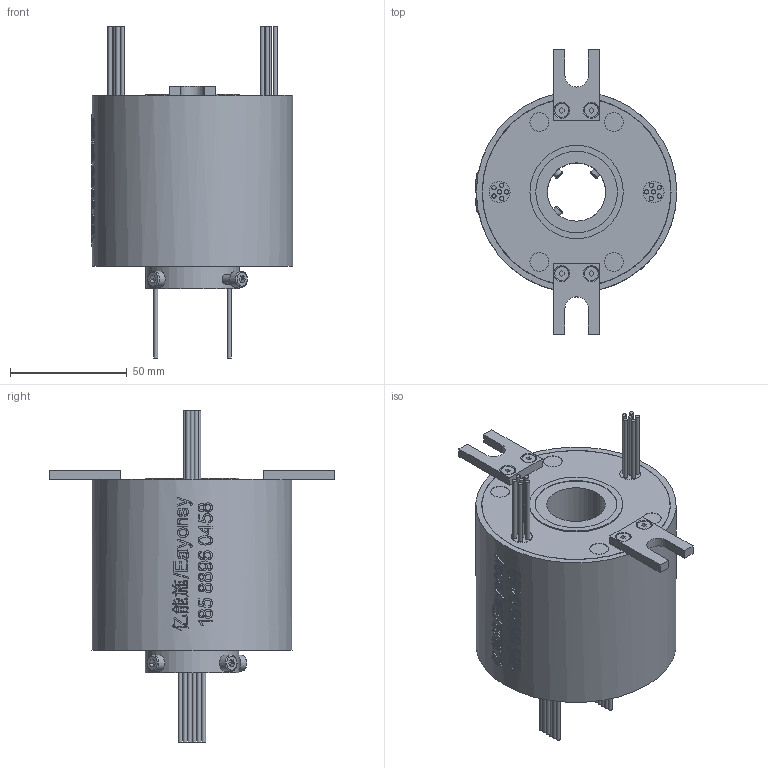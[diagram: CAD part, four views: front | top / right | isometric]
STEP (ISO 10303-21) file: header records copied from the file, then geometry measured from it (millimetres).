
FILE_DESCRIPTION(/* description */ (''),/* implementation_level */ '2;1');
FILE_NAME(/* name */ 'YD2586-1210-3D模型.stp',/* time_stamp */ '2025-09-03T10:22:03+08:00',/* author */ (''),/* organization */ (''),/* preprocessor_version */ 'ST-DEVELOPER v16.7',/* originating_system */ 'SIEMENS PLM Software NX 12.0',/* authorisation */ '');
FILE_SCHEMA (('AUTOMOTIVE_DESIGN { 1 0 10303 214 3 1 1 1 }'));
Length unit declared in the file: millimetre
Products named in the file (1): Admi1DD8882Fzkif
Bounding box: 86.5 x 122 x 142.4 mm (x, y, z)
Volume: 403447.3 mm3; surface area: 46313.6 mm2
Topology: 1 solids, 5 shells, 961 faces, 2517 edges, 1671 vertices
Faces by surface type: extrusion 452, plane 373, cylinder 87, bspline 33, cone 12, torus 4
Full cylindrical faces by diameter (mm): 1.8 x24, 3 x4, 3.4 x1, 3.5 x4, 4 x7, 6 x4, 7 x4, 8 x4, 9 x2, 25 x1, 35 x1, 40 x2, 80.8 x2, 81 x2, 86 x1
Entity records: 37163 total; most frequent: CARTESIAN_POINT 17086, ORIENTED_EDGE 4848, EDGE_CURVE 2424, DIRECTION 2386, B_SPLINE_CURVE_WITH_KNOTS 2203, VERTEX_POINT 1657, EDGE_LOOP 1159, ADVANCED_FACE 961
